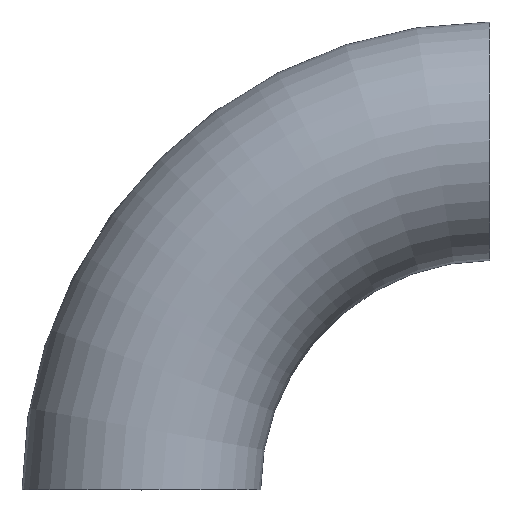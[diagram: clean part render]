
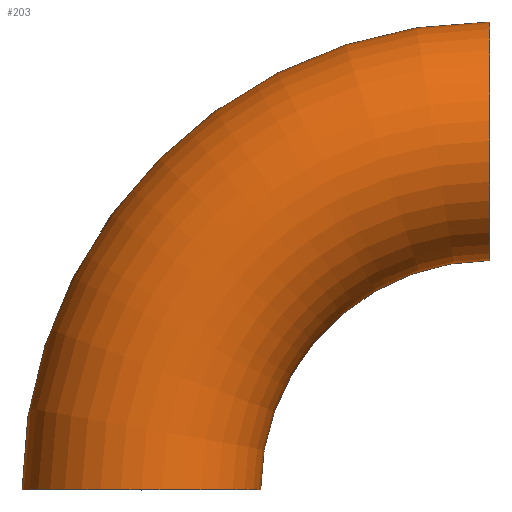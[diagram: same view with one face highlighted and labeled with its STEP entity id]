
A CAD part, top view. The second image highlights one B-rep face of the part: STEP entity #203.
In plain terms, the highlighted toroidal (fillet/blend) face has major radius 225 mm and minor radius 77 mm.
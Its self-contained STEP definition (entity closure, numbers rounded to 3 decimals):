
#1 = DIRECTION ( 'NONE',  ( 0., 0., 1. ) ) ;
#5 = CARTESIAN_POINT ( 'NONE',  ( -77., 0., 0. ) ) ;
#18 = VERTEX_POINT ( 'NONE', #253 ) ;
#20 = AXIS2_PLACEMENT_3D ( 'NONE', #212, #1, #63 ) ;
#25 = CARTESIAN_POINT ( 'NONE',  ( 0., 0., 0. ) ) ;
#29 = DIRECTION ( 'NONE',  ( 0., 0., 1. ) ) ;
#35 = EDGE_CURVE ( 'NONE', #18, #152, #194, .T. ) ;
#44 = CARTESIAN_POINT ( 'NONE',  ( 225., 0., 0. ) ) ;
#47 = FACE_OUTER_BOUND ( 'NONE', #183, .T. ) ;
#48 = DIRECTION ( 'NONE',  ( 0., 0., 1. ) ) ;
#62 = DIRECTION ( 'NONE',  ( 1., 0., 0. ) ) ;
#63 = DIRECTION ( 'NONE',  ( 1., 0., 0. ) ) ;
#73 = ORIENTED_EDGE ( 'NONE', *, *, #35, .F. ) ;
#74 = AXIS2_PLACEMENT_3D ( 'NONE', #189, #207, #62 ) ;
#77 = EDGE_CURVE ( 'NONE', #209, #101, #105, .T. ) ;
#83 = CARTESIAN_POINT ( 'NONE',  ( 225., 225., 0. ) ) ;
#84 = DIRECTION ( 'NONE',  ( 1., 0., 0. ) ) ;
#87 = AXIS2_PLACEMENT_3D ( 'NONE', #83, #84, #29 ) ;
#101 = VERTEX_POINT ( 'NONE', #5 ) ;
#105 = CIRCLE ( 'NONE', #126, 302. ) ;
#106 = CARTESIAN_POINT ( 'NONE',  ( 77., 0., 0. ) ) ;
#117 = TOROIDAL_SURFACE ( 'NONE', #20, 225., 77. ) ;
#126 = AXIS2_PLACEMENT_3D ( 'NONE', #44, #213, #169 ) ;
#129 = EDGE_CURVE ( 'NONE', #209, #18, #131, .T. ) ;
#131 = CIRCLE ( 'NONE', #87, 77. ) ;
#138 = CARTESIAN_POINT ( 'NONE',  ( 225., 302., 0. ) ) ;
#152 = VERTEX_POINT ( 'NONE', #106 ) ;
#153 = EDGE_CURVE ( 'NONE', #101, #152, #187, .T. ) ;
#159 = ORIENTED_EDGE ( 'NONE', *, *, #153, .T. ) ;
#169 = DIRECTION ( 'NONE',  ( 1., 0., 0. ) ) ;
#174 = ORIENTED_EDGE ( 'NONE', *, *, #77, .T. ) ;
#183 = EDGE_LOOP ( 'NONE', ( #223, #174, #159, #73 ) ) ;
#187 = CIRCLE ( 'NONE', #211, 77. ) ;
#189 = CARTESIAN_POINT ( 'NONE',  ( 225., 0., 0. ) ) ;
#192 = DIRECTION ( 'NONE',  ( 0., 1., 0. ) ) ;
#194 = CIRCLE ( 'NONE', #74, 148. ) ;
#203 = ADVANCED_FACE ( 'NONE', ( #47 ), #117, .T. ) ;
#207 = DIRECTION ( 'NONE',  ( 0., 0., 1. ) ) ;
#209 = VERTEX_POINT ( 'NONE', #138 ) ;
#211 = AXIS2_PLACEMENT_3D ( 'NONE', #25, #192, #48 ) ;
#212 = CARTESIAN_POINT ( 'NONE',  ( 225., 0., 0. ) ) ;
#213 = DIRECTION ( 'NONE',  ( 0., 0., 1. ) ) ;
#223 = ORIENTED_EDGE ( 'NONE', *, *, #129, .F. ) ;
#253 = CARTESIAN_POINT ( 'NONE',  ( 225., 148., 0. ) ) ;
